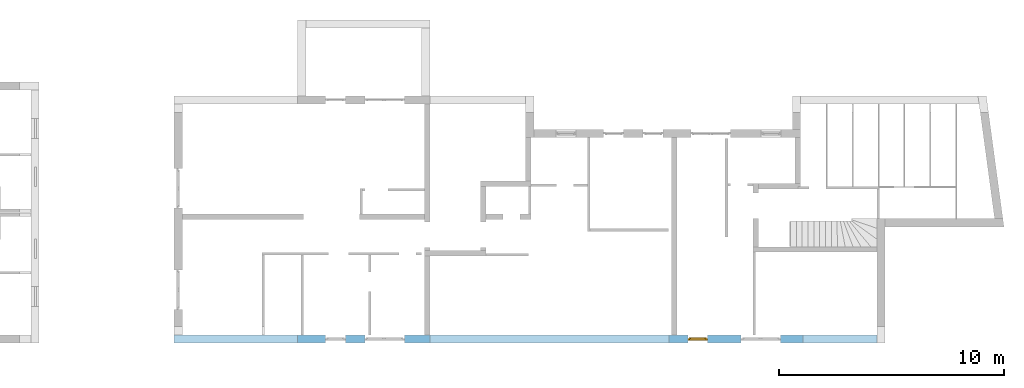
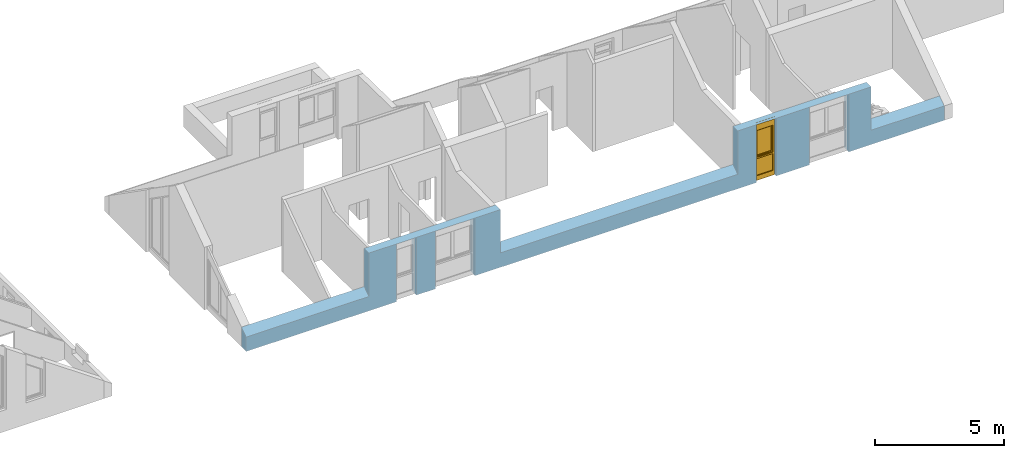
# One storey, part 17 of 23: 1 window, 4 openings, plus 1 element that does not belong to this part.
"""IFC2X3 building model written with IfcOpenShell, lengths in millimetres."""

from ifc_helpers import new_model, entity, si_unit, converted_unit, frame, frame_2d, origin, origin_with_axes, place, context, subcontext, project, spatial, polyline, rectangle, extrude, clip, bounded_halfspace, faceted_brep, material, layer, layer_set, layer_usage, type_object, element, fill, save


model = new_model("IFC2X3")

# Units and contexts
model_context = context("Model", 3, precision=1e-05, world=origin())
body_context = subcontext(model_context, "Body", "Model", "MODEL_VIEW")
ifc_project = project(units=[si_unit("LENGTHUNIT", "METRE", prefix="MILLI"), converted_unit("PLANEANGLEUNIT", "DEGREE", entity("IfcPlaneAngleMeasure", 0.0174532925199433), si_unit("PLANEANGLEUNIT", "RADIAN"), dimensions=[0, 0, 0, 0, 0, 0, 0]), si_unit("AREAUNIT", "SQUARE_METRE"), si_unit("VOLUMEUNIT", "CUBIC_METRE")], contexts=[model_context])

# Building, storey
building_placement = place(None, origin())
building = spatial("IfcBuilding", under=ifc_project, at=building_placement, Name="Gebäude", CompositionType="ELEMENT")
storey_placement = place(building_placement, frame((0.0, 0.0, 5580.0), z_axis=(0.0, 0.0, 1.0), x_axis=(1.0, 0.0, 0.0)))
storey = spatial("IfcBuildingStorey", under=building, at=storey_placement, Name="DG.- Grundriss", CompositionType="ELEMENT", Elevation=5580.0)

# Wall, openings, window
ifc_material_1 = material(Name="Poroton")
ifc_layer = layer(ifc_material_1, 365.0000000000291)
ifc_layer_set = layer_set([ifc_layer])
ifc_layer_usage = layer_usage(ifc_layer_set, "AXIS2", "POSITIVE", 0.0)
wall_placement = place(storey_placement, frame((148357.7928067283, 125274.8877324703, 0.0), z_axis=(0.0, 0.0, 1.0), x_axis=(0.9999999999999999, -2.74927920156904e-11, 0.0)))
wall = element("IfcWallStandardCase", 1, at=wall_placement, inside=storey, material=ifc_layer_usage, Name="<Unnamed Element>", context=body_context, shape_type="Clipping", body=[
    clip(clip(clip(clip(clip(extrude(rectangle(XDim=31280.0, YDim=365.0000000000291, at=frame_2d((15640.0, 182.5000000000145), x_axis=(1.0, 0.0))), origin_with_axes(), (0.0, 0.0, 1.0), 2741.54564934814), bounded_halfspace(frame((11384.99999998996, 365.0000000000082, 935.575751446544), z_axis=(-4.302969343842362e-16, 0.5735764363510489, -0.8191520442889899), x_axis=(2.252077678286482e-11, -0.8191520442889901, -0.5735764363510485)), True, origin(), polyline([(11384.99999998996, 365.0000000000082), (11385.0, -6.259463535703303e-12), (22024.99999860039, -5.552375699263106e-12), (22024.99999859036, 365.0000000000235), (11384.99999998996, 365.0000000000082)]))), bounded_halfspace(frame((5499.999999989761, 365.0000000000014, 935.5757514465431), z_axis=(-4.317638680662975e-16, 0.5735764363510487, -0.81915204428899), x_axis=(-1.0, -2.90124792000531e-15, -1.488264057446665e-15)), True, origin(), polyline([(5499.999999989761, 365.0000000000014), (-1.00348690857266e-08, 364.9999999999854), (0.0, 0.0), (5499.999999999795, 1.404948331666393e-12), (5499.999999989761, 365.0000000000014)]))), bounded_halfspace(frame((27999.99999998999, 365.0000000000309, 935.5757514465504), z_axis=(-2.419408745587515e-16, 0.5735764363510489, -0.81915204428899), x_axis=(2.252077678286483e-11, -0.8191520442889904, -0.5735764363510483)), True, origin(), polyline([(27999.99999998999, 365.0000000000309), (28000.00000000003, 1.86085872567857e-12), (31280.0, 0.0), (31279.99999998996, 365.0000000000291), (27999.99999998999, 365.0000000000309)]))), bounded_halfspace(frame((22024.99999859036, 365.0000000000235, 2741.54564934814), z_axis=(-4.801921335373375e-13, 0.01745240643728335, -0.9998476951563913), x_axis=(2.748860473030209e-11, -0.9998476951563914, -0.01745240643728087)), True, origin(), polyline([(22024.99999859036, 365.0000000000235), (22024.99999860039, -5.552375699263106e-12), (28000.00000000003, 1.86085872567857e-12), (27999.99999998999, 365.0000000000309), (22024.99999859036, 365.0000000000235)]))), bounded_halfspace(frame((5499.999999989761, 365.0000000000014, 2741.545649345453), z_axis=(-4.796320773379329e-13, 0.01745240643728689, -0.9998476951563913), x_axis=(2.748860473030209e-11, -0.9998476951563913, -0.01745240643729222)), True, origin(), polyline([(5499.999999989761, 365.0000000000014), (5499.999999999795, 1.404948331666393e-12), (11385.0, -6.259463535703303e-12), (11384.99999998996, 365.0000000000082), (5499.999999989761, 365.0000000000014)]))),
])
opening_1_placement = place(wall_placement, frame((8489.999999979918, -3.477907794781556e-11, 0.0), z_axis=(0.0, 1.0, 0.0), x_axis=(0.0, 0.0, 1.0)))
element("IfcOpeningElement", 2, at=opening_1_placement, cuts=wall, Name="Fensteröffnung", ObjectType="Opening", context=body_context, shape_type="SweptSolid", body=[
    extrude(rectangle(XDim=2735.174550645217, YDim=1760.0, at=frame_2d((1367.587275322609, 880.0), x_axis=(1.0, 0.0))), origin_with_axes(), (0.0, 0.0, 1.0), 365.0),
])
opening_2_placement = place(wall_placement, frame((25240.29648749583, -1.030266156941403e-10, 0.0), z_axis=(0.0, 1.0, 0.0), x_axis=(0.0, 0.0, 1.0)))
element("IfcOpeningElement", 3, at=opening_2_placement, cuts=wall, Name="Fensteröffnung", ObjectType="Opening", context=body_context, shape_type="SweptSolid", body=[
    extrude(rectangle(XDim=2735.174550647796, YDim=1760.0, at=frame_2d((1367.587275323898, 880.0), x_axis=(1.0, 0.0))), origin_with_axes(), (0.0, 0.0, 1.0), 365.0000000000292),
])
opening_3_placement = place(wall_placement, frame((6739.999999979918, -3.114109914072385e-11, 0.0), z_axis=(0.0, 1.0, 0.0), x_axis=(0.0, 0.0, 1.0)))
element("IfcOpeningElement", 4, at=opening_3_placement, cuts=wall, Name="Fensteröffnung", ObjectType="Opening", context=body_context, shape_type="SweptSolid", body=[
    extrude(rectangle(XDim=2735.174550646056, YDim=885.0, at=frame_2d((1367.587275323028, 442.5), x_axis=(1.0, 0.0))), origin_with_axes(), (0.0, 0.0, 1.0), 365.0000000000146),
])
opening_4_placement = place(wall_placement, frame((22865.29648749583, -9.393166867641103e-11, 0.0), z_axis=(0.0, 1.0, 0.0), x_axis=(0.0, 0.0, 1.0)))
opening_4 = element("IfcOpeningElement", 5, at=opening_4_placement, cuts=wall, Name="Fensteröffnung", ObjectType="Opening", context=body_context, shape_type="SweptSolid", body=[
    extrude(rectangle(XDim=2735.174550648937, YDim=885.0, at=frame_2d((1367.587275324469, 442.5), x_axis=(1.0, 0.0))), origin_with_axes(), (0.0, 0.0, 1.0), 365.0000000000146),
])
ifc_material_2 = material()
window_style = type_object("IfcWindowStyle", Name="Fenster", ConstructionType="NOTDEFINED", OperationType="USERDEFINED", ParameterTakesPrecedence=False, Sizeable=False)
window_placement = place(opening_4_placement, frame((0.0, 0.0, 0.0), z_axis=(1.0, 0.0, 0.0), x_axis=(0.0, 1.0, 0.0)))
window = element("IfcWindow", 6, at=window_placement, inside=storey, type_object=window_style, material=ifc_material_2, Name="Fenster", OverallHeight=2741.545649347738, OverallWidth=885.0, context=body_context, shape_type="Brep", body=[
    faceted_brep([(885.0000000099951, 200.0000000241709, 2737.269158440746), (815.0000000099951, 200.0000000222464, 2737.269158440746), (815.0000000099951, 200.0000000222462, -2.449293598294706e-15), (885.0000000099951, 200.0000000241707, -2.449293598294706e-15), (885.0000000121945, 120.0000000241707, 2.449293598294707e-15), (815.0000000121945, 120.0000000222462, 2.449293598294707e-15), (815.0000000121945, 120.0000000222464, 2737.269158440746), (885.0000000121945, 120.0000000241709, 2737.269158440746), (885.0000000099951, 200.0000000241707, -2.449293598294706e-15), (885.0000000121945, 120.0000000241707, 2.449293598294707e-15), (885.0000000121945, 120.0000000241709, 2737.269158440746), (885.0000000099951, 200.0000000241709, 2737.269158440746), (815.0000000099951, 200.0000000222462, -2.449293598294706e-15), (815.0000000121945, 120.0000000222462, 2.449293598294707e-15), (885.0000000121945, 120.0000000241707, 2.449293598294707e-15), (885.0000000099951, 200.0000000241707, -2.449293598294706e-15), (815.0000000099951, 200.0000000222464, 2737.269158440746), (815.0000000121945, 120.0000000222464, 2737.269158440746), (815.0000000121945, 120.0000000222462, 2.449293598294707e-15), (815.0000000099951, 200.0000000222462, -2.449293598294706e-15), (885.0000000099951, 200.0000000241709, 2737.269158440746), (885.0000000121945, 120.0000000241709, 2737.269158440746), (815.0000000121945, 120.0000000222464, 2737.269158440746), (815.0000000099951, 200.0000000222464, 2737.269158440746)], [[[0, 1, 2, 3]], [[4, 5, 6, 7]], [[8, 9, 10, 11]], [[12, 13, 14, 15]], [[16, 17, 18, 19]], [[20, 21, 22, 23]]], orient=[[False], [False], [False], [False], [False], [False]]),
    faceted_brep([(69.99999999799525, 200.0000000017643, 2737.269158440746), (-2.004753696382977e-09, 199.9999999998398, 2737.269158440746), (-2.004753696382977e-09, 199.9999999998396, -2.449293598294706e-15), (69.99999999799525, 200.0000000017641, -2.449293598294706e-15), (70.00000000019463, 120.0000000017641, 2.449293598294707e-15), (1.946318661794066e-10, 119.9999999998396, 2.449293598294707e-15), (1.946318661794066e-10, 119.9999999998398, 2737.269158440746), (70.00000000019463, 120.0000000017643, 2737.269158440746), (69.99999999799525, 200.0000000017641, -2.449293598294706e-15), (70.00000000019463, 120.0000000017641, 2.449293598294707e-15), (70.00000000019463, 120.0000000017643, 2737.269158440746), (69.99999999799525, 200.0000000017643, 2737.269158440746), (-2.004753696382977e-09, 199.9999999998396, -2.449293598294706e-15), (1.946318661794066e-10, 119.9999999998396, 2.449293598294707e-15), (70.00000000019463, 120.0000000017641, 2.449293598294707e-15), (69.99999999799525, 200.0000000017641, -2.449293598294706e-15), (-2.004753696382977e-09, 199.9999999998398, 2737.269158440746), (1.946318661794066e-10, 119.9999999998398, 2737.269158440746), (1.946318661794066e-10, 119.9999999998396, 2.449293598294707e-15), (-2.004753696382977e-09, 199.9999999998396, -2.449293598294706e-15), (69.99999999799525, 200.0000000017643, 2737.269158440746), (70.00000000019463, 120.0000000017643, 2737.269158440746), (1.946318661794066e-10, 119.9999999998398, 2737.269158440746), (-2.004753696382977e-09, 199.9999999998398, 2737.269158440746)], [[[0, 1, 2, 3]], [[4, 5, 6, 7]], [[8, 9, 10, 11]], [[12, 13, 14, 15]], [[16, 17, 18, 19]], [[20, 21, 22, 23]]], orient=[[False], [False], [False], [False], [False], [False]]),
    faceted_brep([(815.0000000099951, 200.0000000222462, 220.0), (69.99999999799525, 200.0000000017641, 220.0), (69.99999999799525, 200.0000000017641, -2.449293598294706e-15), (815.0000000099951, 200.0000000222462, -2.449293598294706e-15), (815.0000000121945, 120.0000000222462, 2.449293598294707e-15), (70.00000000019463, 120.0000000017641, 2.449293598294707e-15), (70.00000000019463, 120.0000000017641, 220.0), (815.0000000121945, 120.0000000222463, 220.0), (815.0000000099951, 200.0000000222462, -2.449293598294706e-15), (815.0000000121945, 120.0000000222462, 2.449293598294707e-15), (815.0000000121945, 120.0000000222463, 220.0), (815.0000000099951, 200.0000000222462, 220.0), (69.99999999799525, 200.0000000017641, -2.449293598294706e-15), (70.00000000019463, 120.0000000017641, 2.449293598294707e-15), (815.0000000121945, 120.0000000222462, 2.449293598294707e-15), (815.0000000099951, 200.0000000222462, -2.449293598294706e-15), (69.99999999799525, 200.0000000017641, 220.0), (70.00000000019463, 120.0000000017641, 220.0), (70.00000000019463, 120.0000000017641, 2.449293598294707e-15), (69.99999999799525, 200.0000000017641, -2.449293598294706e-15), (815.0000000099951, 200.0000000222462, 220.0), (815.0000000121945, 120.0000000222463, 220.0), (70.00000000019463, 120.0000000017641, 220.0), (69.99999999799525, 200.0000000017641, 220.0)], [[[0, 1, 2, 3]], [[4, 5, 6, 7]], [[8, 9, 10, 11]], [[12, 13, 14, 15]], [[16, 17, 18, 19]], [[20, 21, 22, 23]]], orient=[[False], [False], [False], [False], [False], [False]]),
    faceted_brep([(815.0000000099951, 200.0000000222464, 2737.269158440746), (69.99999999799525, 200.0000000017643, 2737.269158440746), (69.99999999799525, 200.0000000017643, 2367.269158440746), (815.0000000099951, 200.0000000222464, 2367.269158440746), (815.0000000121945, 120.0000000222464, 2367.269158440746), (70.00000000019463, 120.0000000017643, 2367.269158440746), (70.00000000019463, 120.0000000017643, 2737.269158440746), (815.0000000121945, 120.0000000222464, 2737.269158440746), (815.0000000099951, 200.0000000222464, 2367.269158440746), (815.0000000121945, 120.0000000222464, 2367.269158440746), (815.0000000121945, 120.0000000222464, 2737.269158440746), (815.0000000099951, 200.0000000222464, 2737.269158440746), (69.99999999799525, 200.0000000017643, 2367.269158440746), (70.00000000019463, 120.0000000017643, 2367.269158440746), (815.0000000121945, 120.0000000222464, 2367.269158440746), (815.0000000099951, 200.0000000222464, 2367.269158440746), (69.99999999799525, 200.0000000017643, 2737.269158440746), (70.00000000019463, 120.0000000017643, 2737.269158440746), (70.00000000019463, 120.0000000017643, 2367.269158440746), (69.99999999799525, 200.0000000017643, 2367.269158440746), (815.0000000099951, 200.0000000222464, 2737.269158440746), (815.0000000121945, 120.0000000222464, 2737.269158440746), (70.00000000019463, 120.0000000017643, 2737.269158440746), (69.99999999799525, 200.0000000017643, 2737.269158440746)], [[[0, 1, 2, 3]], [[4, 5, 6, 7]], [[8, 9, 10, 11]], [[12, 13, 14, 15]], [[16, 17, 18, 19]], [[20, 21, 22, 23]]], orient=[[False], [False], [False], [False], [False], [False]]),
    faceted_brep([(815.0000000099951, 200.0000000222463, 1090.0), (69.99999999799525, 200.0000000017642, 1090.0), (69.99999999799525, 200.0000000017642, 1020.0), (815.0000000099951, 200.0000000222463, 1020.0), (815.0000000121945, 120.0000000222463, 1020.0), (70.00000000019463, 120.0000000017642, 1020.0), (70.00000000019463, 120.0000000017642, 1090.0), (815.0000000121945, 120.0000000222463, 1090.0), (815.0000000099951, 200.0000000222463, 1020.0), (815.0000000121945, 120.0000000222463, 1020.0), (815.0000000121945, 120.0000000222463, 1090.0), (815.0000000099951, 200.0000000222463, 1090.0), (69.99999999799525, 200.0000000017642, 1020.0), (70.00000000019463, 120.0000000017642, 1020.0), (815.0000000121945, 120.0000000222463, 1020.0), (815.0000000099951, 200.0000000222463, 1020.0), (69.99999999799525, 200.0000000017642, 1090.0), (70.00000000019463, 120.0000000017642, 1090.0), (70.00000000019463, 120.0000000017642, 1020.0), (69.99999999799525, 200.0000000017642, 1020.0), (815.0000000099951, 200.0000000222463, 1090.0), (815.0000000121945, 120.0000000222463, 1090.0), (70.00000000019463, 120.0000000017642, 1090.0), (69.99999999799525, 200.0000000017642, 1090.0)], [[[0, 1, 2, 3]], [[4, 5, 6, 7]], [[8, 9, 10, 11]], [[12, 13, 14, 15]], [[16, 17, 18, 19]], [[20, 21, 22, 23]]], orient=[[False], [False], [False], [False], [False], [False]]),
    faceted_brep([(815.0000000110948, 160.0000000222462, 220.0), (815.0000000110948, 160.0000000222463, 1020.0), (69.99999999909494, 160.0000000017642, 1020.0), (69.99999999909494, 160.0000000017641, 220.0), (815.0000000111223, 159.0000000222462, 220.0), (69.99999999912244, 159.0000000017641, 220.0), (69.99999999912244, 159.0000000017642, 1020.0), (815.0000000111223, 159.0000000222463, 1020.0), (815.0000000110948, 160.0000000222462, 220.0), (815.0000000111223, 159.0000000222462, 220.0), (815.0000000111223, 159.0000000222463, 1020.0), (815.0000000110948, 160.0000000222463, 1020.0), (815.0000000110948, 160.0000000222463, 1020.0), (815.0000000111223, 159.0000000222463, 1020.0), (69.99999999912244, 159.0000000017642, 1020.0), (69.99999999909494, 160.0000000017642, 1020.0), (69.99999999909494, 160.0000000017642, 1020.0), (69.99999999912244, 159.0000000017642, 1020.0), (69.99999999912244, 159.0000000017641, 220.0), (69.99999999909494, 160.0000000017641, 220.0), (69.99999999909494, 160.0000000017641, 220.0), (69.99999999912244, 159.0000000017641, 220.0), (815.0000000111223, 159.0000000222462, 220.0), (815.0000000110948, 160.0000000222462, 220.0)], [[[0, 1, 2, 3]], [[4, 5, 6, 7]], [[8, 9, 10, 11]], [[12, 13, 14, 15]], [[16, 17, 18, 19]], [[20, 21, 22, 23]]], orient=[[False], [False], [False], [False], [False], [False]]),
    faceted_brep([(835.0000000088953, 240.0000000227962, 2387.269158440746), (765.0000000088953, 240.0000000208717, 2387.269158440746), (765.0000000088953, 240.0000000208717, 1070.0), (835.0000000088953, 240.0000000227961, 1070.0), (835.0000000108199, 170.0000000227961, 1070.0), (765.0000000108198, 170.0000000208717, 1070.0), (765.0000000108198, 170.0000000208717, 2387.269158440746), (835.0000000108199, 170.0000000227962, 2387.269158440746), (835.0000000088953, 240.0000000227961, 1070.0), (835.0000000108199, 170.0000000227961, 1070.0), (835.0000000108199, 170.0000000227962, 2387.269158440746), (835.0000000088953, 240.0000000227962, 2387.269158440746), (765.0000000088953, 240.0000000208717, 1070.0), (765.0000000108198, 170.0000000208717, 1070.0), (835.0000000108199, 170.0000000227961, 1070.0), (835.0000000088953, 240.0000000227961, 1070.0), (765.0000000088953, 240.0000000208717, 2387.269158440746), (765.0000000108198, 170.0000000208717, 2387.269158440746), (765.0000000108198, 170.0000000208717, 1070.0), (765.0000000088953, 240.0000000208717, 1070.0), (835.0000000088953, 240.0000000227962, 2387.269158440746), (835.0000000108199, 170.0000000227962, 2387.269158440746), (765.0000000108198, 170.0000000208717, 2387.269158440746), (765.0000000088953, 240.0000000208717, 2387.269158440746)], [[[0, 1, 2, 3]], [[4, 5, 6, 7]], [[8, 9, 10, 11]], [[12, 13, 14, 15]], [[16, 17, 18, 19]], [[20, 21, 22, 23]]], orient=[[False], [False], [False], [False], [False], [False]]),
    faceted_brep([(119.9999999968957, 240.0000000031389, 2387.269158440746), (49.99999999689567, 240.0000000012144, 2387.269158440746), (49.99999999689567, 240.0000000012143, 1070.0), (119.9999999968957, 240.0000000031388, 1070.0), (119.9999999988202, 170.0000000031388, 1070.0), (49.99999999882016, 170.0000000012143, 1070.0), (49.99999999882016, 170.0000000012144, 2387.269158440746), (119.9999999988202, 170.0000000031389, 2387.269158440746), (119.9999999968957, 240.0000000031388, 1070.0), (119.9999999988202, 170.0000000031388, 1070.0), (119.9999999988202, 170.0000000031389, 2387.269158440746), (119.9999999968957, 240.0000000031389, 2387.269158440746), (49.99999999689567, 240.0000000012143, 1070.0), (49.99999999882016, 170.0000000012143, 1070.0), (119.9999999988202, 170.0000000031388, 1070.0), (119.9999999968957, 240.0000000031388, 1070.0), (49.99999999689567, 240.0000000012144, 2387.269158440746), (49.99999999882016, 170.0000000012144, 2387.269158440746), (49.99999999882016, 170.0000000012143, 1070.0), (49.99999999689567, 240.0000000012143, 1070.0), (119.9999999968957, 240.0000000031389, 2387.269158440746), (119.9999999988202, 170.0000000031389, 2387.269158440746), (49.99999999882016, 170.0000000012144, 2387.269158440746), (49.99999999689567, 240.0000000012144, 2387.269158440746)], [[[0, 1, 2, 3]], [[4, 5, 6, 7]], [[8, 9, 10, 11]], [[12, 13, 14, 15]], [[16, 17, 18, 19]], [[20, 21, 22, 23]]], orient=[[False], [False], [False], [False], [False], [False]]),
    faceted_brep([(765.0000000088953, 240.0000000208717, 1140.0), (119.9999999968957, 240.0000000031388, 1140.0), (119.9999999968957, 240.0000000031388, 1070.0), (765.0000000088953, 240.0000000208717, 1070.0), (765.0000000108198, 170.0000000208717, 1070.0), (119.9999999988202, 170.0000000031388, 1070.0), (119.9999999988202, 170.0000000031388, 1140.0), (765.0000000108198, 170.0000000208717, 1140.0), (765.0000000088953, 240.0000000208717, 1070.0), (765.0000000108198, 170.0000000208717, 1070.0), (765.0000000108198, 170.0000000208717, 1140.0), (765.0000000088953, 240.0000000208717, 1140.0), (119.9999999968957, 240.0000000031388, 1070.0), (119.9999999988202, 170.0000000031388, 1070.0), (765.0000000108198, 170.0000000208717, 1070.0), (765.0000000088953, 240.0000000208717, 1070.0), (119.9999999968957, 240.0000000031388, 1140.0), (119.9999999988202, 170.0000000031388, 1140.0), (119.9999999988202, 170.0000000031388, 1070.0), (119.9999999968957, 240.0000000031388, 1070.0), (765.0000000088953, 240.0000000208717, 1140.0), (765.0000000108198, 170.0000000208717, 1140.0), (119.9999999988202, 170.0000000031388, 1140.0), (119.9999999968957, 240.0000000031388, 1140.0)], [[[0, 1, 2, 3]], [[4, 5, 6, 7]], [[8, 9, 10, 11]], [[12, 13, 14, 15]], [[16, 17, 18, 19]], [[20, 21, 22, 23]]], orient=[[False], [False], [False], [False], [False], [False]]),
    faceted_brep([(765.0000000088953, 240.0000000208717, 2387.269158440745), (119.9999999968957, 240.0000000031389, 2387.269158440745), (119.9999999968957, 240.0000000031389, 2317.269158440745), (765.0000000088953, 240.0000000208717, 2317.269158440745), (765.0000000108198, 170.0000000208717, 2317.269158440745), (119.9999999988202, 170.0000000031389, 2317.269158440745), (119.9999999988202, 170.0000000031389, 2387.269158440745), (765.0000000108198, 170.0000000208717, 2387.269158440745), (765.0000000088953, 240.0000000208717, 2317.269158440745), (765.0000000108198, 170.0000000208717, 2317.269158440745), (765.0000000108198, 170.0000000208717, 2387.269158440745), (765.0000000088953, 240.0000000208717, 2387.269158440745), (119.9999999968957, 240.0000000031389, 2317.269158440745), (119.9999999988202, 170.0000000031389, 2317.269158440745), (765.0000000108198, 170.0000000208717, 2317.269158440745), (765.0000000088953, 240.0000000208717, 2317.269158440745), (119.9999999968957, 240.0000000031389, 2387.269158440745), (119.9999999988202, 170.0000000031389, 2387.269158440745), (119.9999999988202, 170.0000000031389, 2317.269158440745), (119.9999999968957, 240.0000000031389, 2317.269158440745), (765.0000000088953, 240.0000000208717, 2387.269158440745), (765.0000000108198, 170.0000000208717, 2387.269158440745), (119.9999999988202, 170.0000000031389, 2387.269158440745), (119.9999999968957, 240.0000000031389, 2387.269158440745)], [[[0, 1, 2, 3]], [[4, 5, 6, 7]], [[8, 9, 10, 11]], [[12, 13, 14, 15]], [[16, 17, 18, 19]], [[20, 21, 22, 23]]], orient=[[False], [False], [False], [False], [False], [False]]),
    faceted_brep([(765.0000000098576, 205.0000000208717, 1140.0), (765.0000000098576, 205.0000000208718, 2317.269158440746), (119.9999999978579, 205.0000000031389, 2317.269158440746), (119.9999999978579, 205.0000000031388, 1140.0), (765.0000000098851, 204.0000000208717, 1140.0), (119.9999999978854, 204.0000000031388, 1140.0), (119.9999999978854, 204.0000000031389, 2317.269158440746), (765.0000000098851, 204.0000000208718, 2317.269158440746), (765.0000000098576, 205.0000000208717, 1140.0), (765.0000000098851, 204.0000000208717, 1140.0), (765.0000000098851, 204.0000000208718, 2317.269158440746), (765.0000000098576, 205.0000000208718, 2317.269158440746), (765.0000000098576, 205.0000000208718, 2317.269158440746), (765.0000000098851, 204.0000000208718, 2317.269158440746), (119.9999999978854, 204.0000000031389, 2317.269158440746), (119.9999999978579, 205.0000000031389, 2317.269158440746), (119.9999999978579, 205.0000000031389, 2317.269158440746), (119.9999999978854, 204.0000000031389, 2317.269158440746), (119.9999999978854, 204.0000000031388, 1140.0), (119.9999999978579, 205.0000000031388, 1140.0), (119.9999999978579, 205.0000000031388, 1140.0), (119.9999999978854, 204.0000000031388, 1140.0), (765.0000000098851, 204.0000000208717, 1140.0), (765.0000000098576, 205.0000000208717, 1140.0)], [[[0, 1, 2, 3]], [[4, 5, 6, 7]], [[8, 9, 10, 11]], [[12, 13, 14, 15]], [[16, 17, 18, 19]], [[20, 21, 22, 23]]], orient=[[False], [False], [False], [False], [False], [False]]),
])
fill(opening_4, window)

save(model, "model.ifc")
